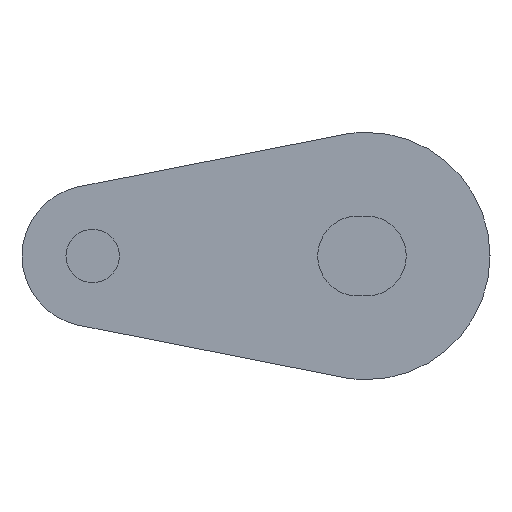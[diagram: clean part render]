
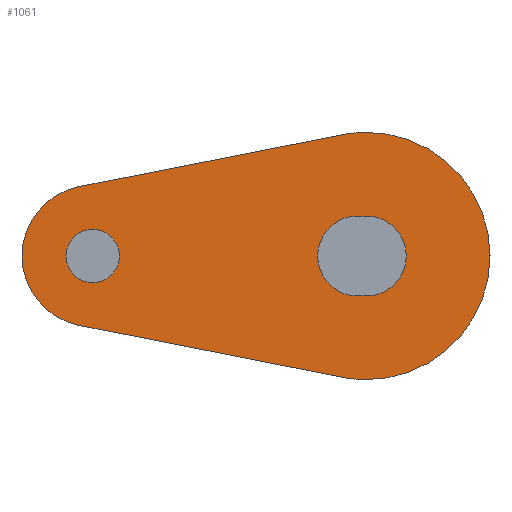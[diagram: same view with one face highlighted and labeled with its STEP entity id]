
A CAD part, left-side view. The second image highlights one B-rep face of the part: STEP entity #1061.
In plain terms, the highlighted planar face has unit normal (-1, 0, 0).
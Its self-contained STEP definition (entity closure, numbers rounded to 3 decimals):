
#51 = CARTESIAN_POINT ( 'NONE',  ( -203.5, 0.5, 2.26 ) ) ;
#56 = CARTESIAN_POINT ( 'NONE',  ( -203.5, 0., 2.26 ) ) ;
#57 = DIRECTION ( 'NONE',  ( 0., 0., -1. ) ) ;
#58 = DIRECTION ( 'NONE',  ( -1., 0., 0. ) ) ;
#59 = CARTESIAN_POINT ( 'NONE',  ( -203.5, 0., -2.26 ) ) ;
#60 = CARTESIAN_POINT ( 'NONE',  ( -203.5, 15.5, 0. ) ) ;
#61 = PLANE ( 'NONE',  #466 ) ;
#64 = CARTESIAN_POINT ( 'NONE',  ( -203.5, 16.274, -3.924 ) ) ;
#87 = CARTESIAN_POINT ( 'NONE',  ( -203.5, 16.274, 3.924 ) ) ;
#96 = CARTESIAN_POINT ( 'NONE',  ( -203.5, 1.355, -6.868 ) ) ;
#106 = CARTESIAN_POINT ( 'NONE',  ( -203.5, 0.5, -2.26 ) ) ;
#156 = CARTESIAN_POINT ( 'NONE',  ( -203.5, 15.5, 1.51 ) ) ;
#167 = CARTESIAN_POINT ( 'NONE',  ( -203.5, 15.5, -1.51 ) ) ;
#201 = CARTESIAN_POINT ( 'NONE',  ( -203.5, 0., -7. ) ) ;
#206 = DIRECTION ( 'NONE',  ( 0., 0., -1. ) ) ;
#208 = DIRECTION ( 'NONE',  ( 1., 0., 0. ) ) ;
#210 = DIRECTION ( 'NONE',  ( 0., 0., -1. ) ) ;
#211 = CARTESIAN_POINT ( 'NONE',  ( -203.5, 0., 7. ) ) ;
#212 = DIRECTION ( 'NONE',  ( 1., 0., 0. ) ) ;
#215 = DIRECTION ( 'NONE',  ( 0., 0., -1. ) ) ;
#216 = DIRECTION ( 'NONE',  ( 1., 0., 0. ) ) ;
#217 = CARTESIAN_POINT ( 'NONE',  ( -203.5, 0., 0. ) ) ;
#218 = CARTESIAN_POINT ( 'NONE',  ( -203.5, 0., 0. ) ) ;
#221 = CARTESIAN_POINT ( 'NONE',  ( -203.5, 15.5, 0. ) ) ;
#229 = CARTESIAN_POINT ( 'NONE',  ( -203.5, 1.355, 6.868 ) ) ;
#242 = DIRECTION ( 'NONE',  ( 0., 0., -1. ) ) ;
#243 = DIRECTION ( 'NONE',  ( 1., 0., 0. ) ) ;
#246 = DIRECTION ( 'NONE',  ( 0., 0., -1. ) ) ;
#247 = DIRECTION ( 'NONE',  ( 1., 0., 0. ) ) ;
#256 = CARTESIAN_POINT ( 'NONE',  ( -203.5, 15.5, 0. ) ) ;
#262 = CARTESIAN_POINT ( 'NONE',  ( -203.5, 0.5, 0. ) ) ;
#274 = DIRECTION ( 'NONE',  ( 0., 0., -1. ) ) ;
#275 = DIRECTION ( 'NONE',  ( 1., 0., 0. ) ) ;
#286 = CARTESIAN_POINT ( 'NONE',  ( -203.5, 0., 0. ) ) ;
#303 = DIRECTION ( 'NONE',  ( 0., 1., 0. ) ) ;
#304 = CARTESIAN_POINT ( 'NONE',  ( -203.5, 0.5, -2.26 ) ) ;
#345 = VERTEX_POINT ( 'NONE', #229 ) ;
#362 = DIRECTION ( 'NONE',  ( 0., 0.981, 0.194 ) ) ;
#366 = VERTEX_POINT ( 'NONE', #211 ) ;
#370 = VERTEX_POINT ( 'NONE', #201 ) ;
#372 = CARTESIAN_POINT ( 'NONE',  ( -203.5, 1.355, -6.868 ) ) ;
#376 = VERTEX_POINT ( 'NONE', #167 ) ;
#382 = VERTEX_POINT ( 'NONE', #156 ) ;
#390 = DIRECTION ( 'NONE',  ( 0., 0., -1. ) ) ;
#391 = DIRECTION ( 'NONE',  ( 1., 0., 0. ) ) ;
#393 = CARTESIAN_POINT ( 'NONE',  ( -203.5, 15.5, 0. ) ) ;
#410 = DIRECTION ( 'NONE',  ( 0., 0., -1. ) ) ;
#411 = DIRECTION ( 'NONE',  ( 1., 0., 0. ) ) ;
#412 = CARTESIAN_POINT ( 'NONE',  ( -203.5, 0., 0. ) ) ;
#414 = DIRECTION ( 'NONE',  ( 0., -0.981, 0.194 ) ) ;
#416 = CARTESIAN_POINT ( 'NONE',  ( -203.5, 16.274, 3.924 ) ) ;
#419 = VERTEX_POINT ( 'NONE', #106 ) ;
#424 = VERTEX_POINT ( 'NONE', #96 ) ;
#433 = DIRECTION ( 'NONE',  ( 0., -1., 0. ) ) ;
#435 = VERTEX_POINT ( 'NONE', #87 ) ;
#437 = CARTESIAN_POINT ( 'NONE',  ( -203.5, 0.5, 2.26 ) ) ;
#448 = VERTEX_POINT ( 'NONE', #64 ) ;
#449 = VERTEX_POINT ( 'NONE', #59 ) ;
#450 = VERTEX_POINT ( 'NONE', #56 ) ;
#455 = VERTEX_POINT ( 'NONE', #51 ) ;
#466 = AXIS2_PLACEMENT_3D ( 'NONE', #60, #58, #57 ) ;
#479 = AXIS2_PLACEMENT_3D ( 'NONE', #221, #212, #210 ) ;
#487 = EDGE_CURVE ( 'NONE', #455, #450, #814, .T. ) ;
#513 = EDGE_CURVE ( 'NONE', #435, #345, #822, .T. ) ;
#516 = EDGE_CURVE ( 'NONE', #370, #424, #842, .T. ) ;
#529 = EDGE_CURVE ( 'NONE', #448, #435, #825, .T. ) ;
#531 = AXIS2_PLACEMENT_3D ( 'NONE', #218, #216, #215 ) ;
#539 = AXIS2_PLACEMENT_3D ( 'NONE', #262, #247, #246 ) ;
#545 = EDGE_CURVE ( 'NONE', #424, #448, #742, .T. ) ;
#548 = AXIS2_PLACEMENT_3D ( 'NONE', #286, #275, #274 ) ;
#554 = AXIS2_PLACEMENT_3D ( 'NONE', #412, #411, #410 ) ;
#563 = AXIS2_PLACEMENT_3D ( 'NONE', #393, #391, #390 ) ;
#575 = EDGE_CURVE ( 'NONE', #449, #419, #829, .T. ) ;
#585 = EDGE_CURVE ( 'NONE', #450, #449, #861, .T. ) ;
#602 = EDGE_CURVE ( 'NONE', #419, #455, #828, .T. ) ;
#603 = EDGE_CURVE ( 'NONE', #376, #382, #860, .T. ) ;
#616 = EDGE_CURVE ( 'NONE', #345, #366, #921, .T. ) ;
#618 = EDGE_CURVE ( 'NONE', #382, #376, #931, .T. ) ;
#619 = AXIS2_PLACEMENT_3D ( 'NONE', #256, #243, #242 ) ;
#621 = EDGE_CURVE ( 'NONE', #366, #370, #923, .T. ) ;
#623 = AXIS2_PLACEMENT_3D ( 'NONE', #217, #208, #206 ) ;
#658 = VECTOR ( 'NONE', #433, 1000. ) ;
#717 = FACE_OUTER_BOUND ( 'NONE', #886, .T. ) ;
#742 = LINE ( 'NONE', #372, #753 ) ;
#748 = ORIENTED_EDGE ( 'NONE', *, *, #487, .T. ) ;
#752 = ORIENTED_EDGE ( 'NONE', *, *, #545, .F. ) ;
#753 = VECTOR ( 'NONE', #362, 1000. ) ;
#758 = EDGE_LOOP ( 'NONE', ( #993, #748, #888, #1001 ) ) ;
#785 = VECTOR ( 'NONE', #414, 1000. ) ;
#814 = LINE ( 'NONE', #437, #658 ) ;
#820 = VECTOR ( 'NONE', #303, 1000. ) ;
#822 = LINE ( 'NONE', #416, #785 ) ;
#825 = CIRCLE ( 'NONE', #563, 4. ) ;
#828 = CIRCLE ( 'NONE', #539, 2.26 ) ;
#829 = LINE ( 'NONE', #304, #820 ) ;
#842 = CIRCLE ( 'NONE', #554, 7. ) ;
#860 = CIRCLE ( 'NONE', #619, 1.51 ) ;
#861 = CIRCLE ( 'NONE', #548, 2.26 ) ;
#876 = ORIENTED_EDGE ( 'NONE', *, *, #616, .F. ) ;
#877 = ORIENTED_EDGE ( 'NONE', *, *, #621, .F. ) ;
#886 = EDGE_LOOP ( 'NONE', ( #991, #752, #941, #877, #876, #916 ) ) ;
#888 = ORIENTED_EDGE ( 'NONE', *, *, #585, .T. ) ;
#909 = EDGE_LOOP ( 'NONE', ( #994, #958 ) ) ;
#916 = ORIENTED_EDGE ( 'NONE', *, *, #513, .F. ) ;
#921 = CIRCLE ( 'NONE', #531, 7. ) ;
#923 = CIRCLE ( 'NONE', #623, 7. ) ;
#931 = CIRCLE ( 'NONE', #479, 1.51 ) ;
#941 = ORIENTED_EDGE ( 'NONE', *, *, #516, .F. ) ;
#958 = ORIENTED_EDGE ( 'NONE', *, *, #618, .T. ) ;
#967 = FACE_BOUND ( 'NONE', #909, .T. ) ;
#991 = ORIENTED_EDGE ( 'NONE', *, *, #529, .F. ) ;
#993 = ORIENTED_EDGE ( 'NONE', *, *, #602, .T. ) ;
#994 = ORIENTED_EDGE ( 'NONE', *, *, #603, .T. ) ;
#1001 = ORIENTED_EDGE ( 'NONE', *, *, #575, .T. ) ;
#1007 = FACE_BOUND ( 'NONE', #758, .T. ) ;
#1061 = ADVANCED_FACE ( 'NONE', ( #1007, #967, #717 ), #61, .T. ) ;
